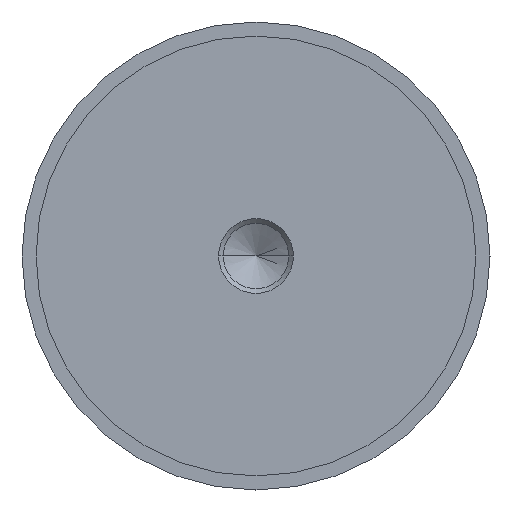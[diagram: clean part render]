
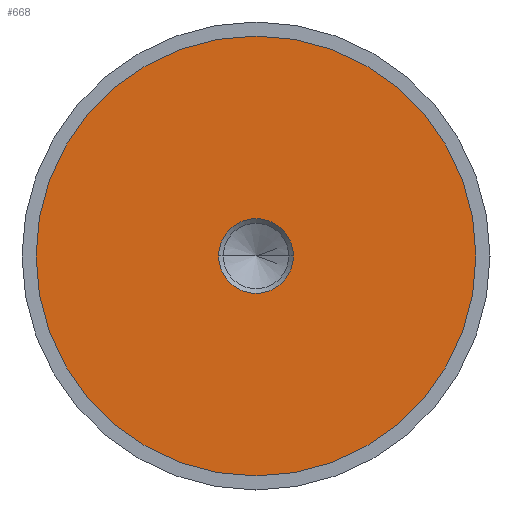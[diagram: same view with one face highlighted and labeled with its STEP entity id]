
A CAD part, left-side view. The second image highlights one B-rep face of the part: STEP entity #668.
In plain terms, the highlighted planar face has unit normal (-1, 0, 0).
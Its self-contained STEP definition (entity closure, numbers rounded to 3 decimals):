
#19 = AXIS2_PLACEMENT_3D ( 'NONE', #319, #620, #83 ) ;
#20 = FACE_OUTER_BOUND ( 'NONE', #419, .T. ) ;
#25 = DIRECTION ( 'NONE',  ( 0., 0., -1. ) ) ;
#83 = DIRECTION ( 'NONE',  ( 0., 0., -1. ) ) ;
#108 = CIRCLE ( 'NONE', #435, 7.99 ) ;
#121 = DIRECTION ( 'NONE',  ( 0., 0., 1. ) ) ;
#141 = EDGE_CURVE ( 'NONE', #474, #557, #297, .T. ) ;
#202 = EDGE_LOOP ( 'NONE', ( #680, #454 ) ) ;
#207 = FACE_BOUND ( 'NONE', #202, .T. ) ;
#217 = CARTESIAN_POINT ( 'NONE',  ( -37.49, 0., 0. ) ) ;
#226 = CIRCLE ( 'NONE', #603, 47. ) ;
#228 = DIRECTION ( 'NONE',  ( 0., 0., -1. ) ) ;
#231 = EDGE_CURVE ( 'NONE', #729, #332, #552, .T. ) ;
#235 = ORIENTED_EDGE ( 'NONE', *, *, #141, .T. ) ;
#255 = AXIS2_PLACEMENT_3D ( 'NONE', #292, #538, #228 ) ;
#292 = CARTESIAN_POINT ( 'NONE',  ( -37.49, 0., 0. ) ) ;
#296 = CARTESIAN_POINT ( 'NONE',  ( -37.49, -7.99, 0. ) ) ;
#297 = CIRCLE ( 'NONE', #396, 47. ) ;
#307 = DIRECTION ( 'NONE',  ( -1., 0., 0. ) ) ;
#312 = DIRECTION ( 'NONE',  ( 0., 0., 1. ) ) ;
#319 = CARTESIAN_POINT ( 'NONE',  ( -37.49, 47., 0. ) ) ;
#332 = VERTEX_POINT ( 'NONE', #623 ) ;
#361 = DIRECTION ( 'NONE',  ( -1., 0., 0. ) ) ;
#364 = CARTESIAN_POINT ( 'NONE',  ( -37.49, 0., -47. ) ) ;
#396 = AXIS2_PLACEMENT_3D ( 'NONE', #663, #307, #312 ) ;
#419 = EDGE_LOOP ( 'NONE', ( #515, #235 ) ) ;
#435 = AXIS2_PLACEMENT_3D ( 'NONE', #217, #754, #25 ) ;
#448 = EDGE_CURVE ( 'NONE', #332, #729, #108, .T. ) ;
#451 = PLANE ( 'NONE',  #19 ) ;
#454 = ORIENTED_EDGE ( 'NONE', *, *, #448, .T. ) ;
#474 = VERTEX_POINT ( 'NONE', #364 ) ;
#493 = EDGE_CURVE ( 'NONE', #557, #474, #226, .T. ) ;
#515 = ORIENTED_EDGE ( 'NONE', *, *, #493, .T. ) ;
#538 = DIRECTION ( 'NONE',  ( 1., 0., 0. ) ) ;
#552 = CIRCLE ( 'NONE', #255, 7.99 ) ;
#557 = VERTEX_POINT ( 'NONE', #773 ) ;
#603 = AXIS2_PLACEMENT_3D ( 'NONE', #782, #361, #121 ) ;
#620 = DIRECTION ( 'NONE',  ( 1., 0., 0. ) ) ;
#623 = CARTESIAN_POINT ( 'NONE',  ( -37.49, 7.99, 0. ) ) ;
#663 = CARTESIAN_POINT ( 'NONE',  ( -37.49, 0., 0. ) ) ;
#668 = ADVANCED_FACE ( 'NONE', ( #207, #20 ), #451, .F. ) ;
#680 = ORIENTED_EDGE ( 'NONE', *, *, #231, .T. ) ;
#729 = VERTEX_POINT ( 'NONE', #296 ) ;
#754 = DIRECTION ( 'NONE',  ( 1., 0., 0. ) ) ;
#773 = CARTESIAN_POINT ( 'NONE',  ( -37.49, 0., 47. ) ) ;
#782 = CARTESIAN_POINT ( 'NONE',  ( -37.49, 0., 0. ) ) ;
